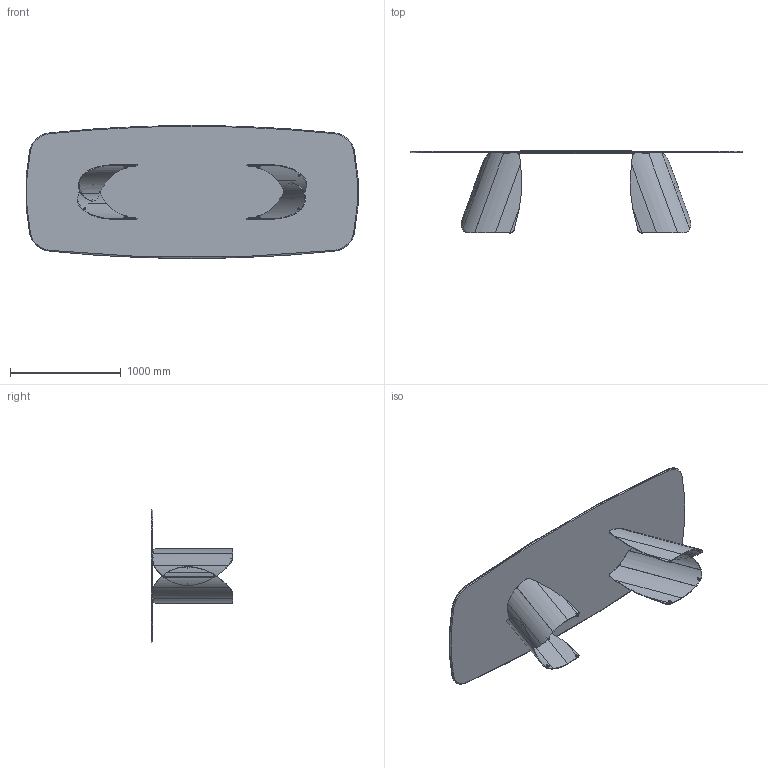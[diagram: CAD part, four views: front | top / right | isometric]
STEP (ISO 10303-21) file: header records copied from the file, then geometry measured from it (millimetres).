
FILE_DESCRIPTION (( 'STEP AP203' ), '1' );
FILE_NAME ('PA44C_Perla 300x120_Ceramic Shaped.STEP', '2024-07-31T12:42:57', ( '' ), ( '' ), 'SwSTEP 2.0', 'SolidWorks 2022', '' );
FILE_SCHEMA (( 'CONFIG_CONTROL_DESIGN' ));
Length unit declared in the file: millimetre
Products named in the file (9): COLLO BASE PERLA PER000000 CON FERRAMENTA; PER000000_03-00-PERLA BUSSOLA PER PIEDE; PER000000-00-PERLA BASE GREZZA; K4XCMXX-00-Piani Sagomati in ceramica_3000 x 1200; PER000000_01-00-PERLA LAMIERA ESTERNA; PA44C_Perla 300x120_Ceramic Shaped; PIEDINO D.15 x H.8_filetto M6x11; profilo U 9x7 bombato_L = 60mm; PER000000_02-00-PERLA LAMIERA INTERNA
Assembly tree (16 placements, depth 4):
  PA44C_Perla 300x120_Ceramic Shaped
    COLLO BASE PERLA PER000000 CON FERRAMENTA  x2
      PER000000-00-PERLA BASE GREZZA
        PER000000_01-00-PERLA LAMIERA ESTERNA
        PER000000_02-00-PERLA LAMIERA INTERNA
        PER000000_03-00-PERLA BUSSOLA PER PIEDE  x4
      PIEDINO D.15 x H.8_filetto M6x11
      profilo U 9x7 bombato_L = 60mm
    K4XCMXX-00-Piani Sagomati in ceramica_3000 x 1200
Bounding box: 2991.72 x 737.5 x 1200 mm (x, y, z)
Volume: 63437294.9 mm3; surface area: 16910445.3 mm2
Topology: 34 solids, 34 shells, 497 faces, 1103 edges, 674 vertices
Faces by surface type: cylinder 174, bspline 130, plane 104, cone 57, torus 32
Entity records: 12857 total; most frequent: CARTESIAN_POINT 8271, ORIENTED_EDGE 800, DIRECTION 567, EDGE_CURVE 400, VERTEX_POINT 247, AXIS2_PLACEMENT_3D 221, EDGE_LOOP 181, FACE_OUTER_BOUND 171
